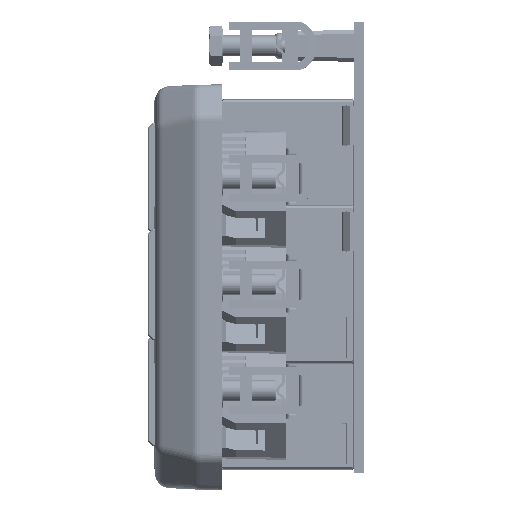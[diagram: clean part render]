
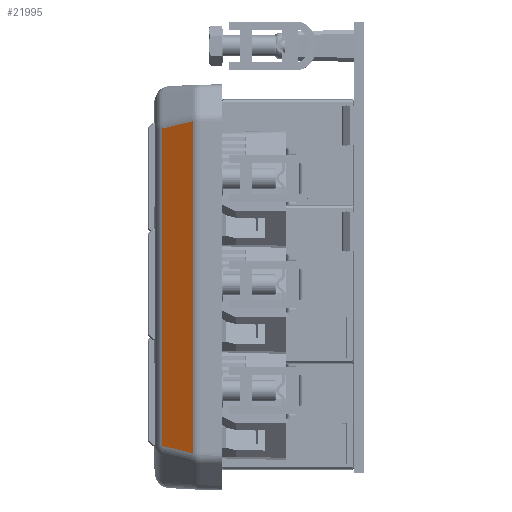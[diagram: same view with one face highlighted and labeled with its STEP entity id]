
A CAD part, left-side view. The second image highlights one B-rep face of the part: STEP entity #21995.
In plain terms, the highlighted planar face has unit normal (-0.866, 0.5, 0).
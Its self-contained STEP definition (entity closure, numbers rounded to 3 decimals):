
#21860 = ORIENTED_EDGE ( 'NONE', *, *, #21959, .T. ) ;
#21877 = VERTEX_POINT ( 'NONE', #25957 ) ;
#21882 = EDGE_LOOP ( 'NONE', ( #22000, #21997, #21860, #21961 ) ) ;
#21950 = EDGE_CURVE ( 'NONE', #21877, #21991, #26187, .T. ) ;
#21951 = EDGE_CURVE ( 'NONE', #22001, #21877, #26169, .T. ) ;
#21954 = VERTEX_POINT ( 'NONE', #25657 ) ;
#21959 = EDGE_CURVE ( 'NONE', #21991, #21954, #22963, .T. ) ;
#21961 = ORIENTED_EDGE ( 'NONE', *, *, #21962, .T. ) ;
#21962 = EDGE_CURVE ( 'NONE', #21954, #22001, #23490, .T. ) ;
#21991 = VERTEX_POINT ( 'NONE', #26378 ) ;
#21995 = ADVANCED_FACE ( 'NONE', ( #26376 ), #26240, .T. ) ;
#21997 = ORIENTED_EDGE ( 'NONE', *, *, #21950, .T. ) ;
#22000 = ORIENTED_EDGE ( 'NONE', *, *, #21951, .T. ) ;
#22001 = VERTEX_POINT ( 'NONE', #26367 ) ;
#22963 = LINE ( 'NONE', #23517, #24101 ) ;
#23490 = LINE ( 'NONE', #25017, #25108 ) ;
#23517 = CARTESIAN_POINT ( 'NONE',  ( -92.339, 20.51, -60.272 ) ) ;
#24094 = DIRECTION ( 'NONE',  ( -0.49, -0.848, -0.203 ) ) ;
#24101 = VECTOR ( 'NONE', #24094, 1000. ) ;
#25017 = CARTESIAN_POINT ( 'NONE',  ( -97.869, 10.932, 0. ) ) ;
#25108 = VECTOR ( 'NONE', #25144, 1000. ) ;
#25144 = DIRECTION ( 'NONE',  ( 0., 0., 1. ) ) ;
#25657 = CARTESIAN_POINT ( 'NONE',  ( -97.869, 10.932, -62.562 ) ) ;
#25957 = CARTESIAN_POINT ( 'NONE',  ( -91.277, 22.35, 59.832 ) ) ;
#26164 = DIRECTION ( 'NONE',  ( 0.49, 0.848, -0.203 ) ) ;
#26166 = VECTOR ( 'NONE', #26164, 1000. ) ;
#26168 = CARTESIAN_POINT ( 'NONE',  ( -92.339, 20.51, 60.272 ) ) ;
#26169 = LINE ( 'NONE', #26168, #26166 ) ;
#26175 = DIRECTION ( 'NONE',  ( 0., 0., -1. ) ) ;
#26176 = VECTOR ( 'NONE', #26175, 1000. ) ;
#26181 = CARTESIAN_POINT ( 'NONE',  ( -91.277, 22.35, 0. ) ) ;
#26187 = LINE ( 'NONE', #26181, #26176 ) ;
#26236 = CARTESIAN_POINT ( 'NONE',  ( -98.581, 9.7, 0. ) ) ;
#26240 = PLANE ( 'NONE',  #26369 ) ;
#26356 = DIRECTION ( 'NONE',  ( -0.5, -0.866, 0. ) ) ;
#26358 = DIRECTION ( 'NONE',  ( -0.866, 0.5, 0. ) ) ;
#26367 = CARTESIAN_POINT ( 'NONE',  ( -97.869, 10.932, 62.562 ) ) ;
#26369 = AXIS2_PLACEMENT_3D ( 'NONE', #26236, #26358, #26356 ) ;
#26376 = FACE_OUTER_BOUND ( 'NONE', #21882, .T. ) ;
#26378 = CARTESIAN_POINT ( 'NONE',  ( -91.277, 22.35, -59.832 ) ) ;
